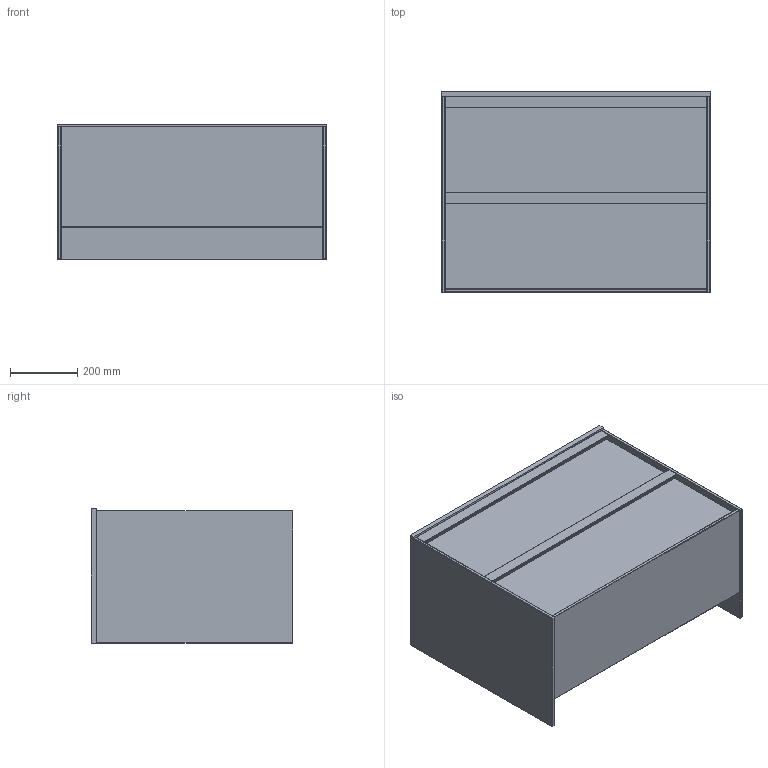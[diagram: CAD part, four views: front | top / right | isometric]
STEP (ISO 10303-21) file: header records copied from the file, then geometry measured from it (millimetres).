
FILE_DESCRIPTION (( 'STEP AP203' ), '1' );
FILE_NAME ('H2-80-S-Shell-drawing.STEP', '2024-10-23T08:02:15', ( '' ), ( '' ), 'SwSTEP 2.0', 'SolidWorks 2024', '' );
FILE_SCHEMA (( 'CONFIG_CONTROL_DESIGN' ));
Length unit declared in the file: millimetre
Products named in the file (6): handtag-780x35x20; Stenskiva-800x400x15; Sida-584x395x10; lådfront-780x287x10; H2-80-S-Shell-drawing; Botten-780x300x10
Assembly tree (8 placements, depth 2):
  H2-80-S-Shell-drawing
    Botten-780x300x10
    handtag-780x35x20  x2
    Sida-584x395x10  x2
    Stenskiva-800x400x15
    lådfront-780x287x10  x2
Bounding box: 800 x 599 x 400 mm (x, y, z)
Volume: 17160531.9 mm3; surface area: 3215118.9 mm2
Topology: 8 solids, 8 shells, 188 faces, 404 edges, 176 vertices
Faces by surface type: cylinder 84, sphere 56, plane 48
Entity records: 3364 total; most frequent: DIRECTION 542, CARTESIAN_POINT 429, ORIENTED_EDGE 408, AXIS2_PLACEMENT_3D 217, EDGE_CURVE 204, EDGE_LOOP 110, ADVANCED_FACE 110, FACE_OUTER_BOUND 110
